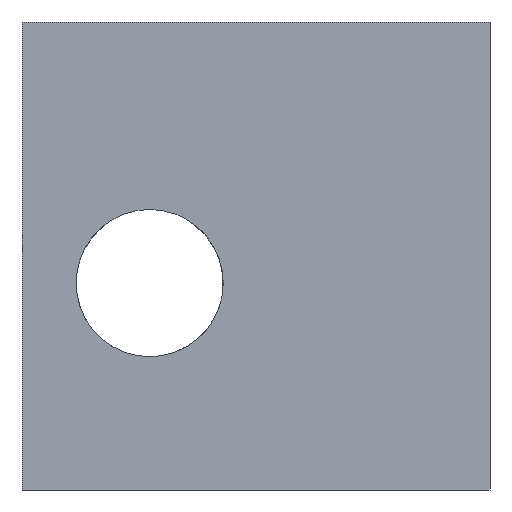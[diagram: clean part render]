
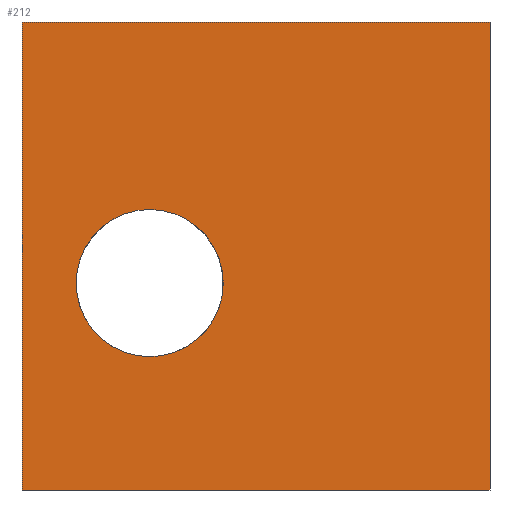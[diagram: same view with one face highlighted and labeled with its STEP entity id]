
A CAD part, front view. The second image highlights one B-rep face of the part: STEP entity #212.
In plain terms, the highlighted planar face has unit normal (0, -1, 0).
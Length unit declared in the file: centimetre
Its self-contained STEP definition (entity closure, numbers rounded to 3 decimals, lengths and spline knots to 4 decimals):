
#17 = CARTESIAN_POINT ( 'NONE',  ( 272.8139, 0., 599.3149 ) ) ;
#36 = AXIS2_PLACEMENT_3D ( 'NONE', #710, #622, #179 ) ;
#49 = DIRECTION ( 'NONE',  ( 0., 0., 1. ) ) ;
#64 = EDGE_CURVE ( 'NONE', #673, #615, #190, .T. ) ;
#71 = DIRECTION ( 'NONE',  ( 1., 0., 0. ) ) ;
#110 = ORIENTED_EDGE ( 'NONE', *, *, #122, .F. ) ;
#117 = CARTESIAN_POINT ( 'NONE',  ( 1000., 0., 1000. ) ) ;
#122 = EDGE_CURVE ( 'NONE', #175, #366, #432, .T. ) ;
#123 = LINE ( 'NONE', #377, #543 ) ;
#175 = VERTEX_POINT ( 'NONE', #520 ) ;
#179 = DIRECTION ( 'NONE',  ( 0., 0., -1. ) ) ;
#184 = AXIS2_PLACEMENT_3D ( 'NONE', #781, #204, #283 ) ;
#190 = LINE ( 'NONE', #696, #330 ) ;
#194 = FACE_BOUND ( 'NONE', #480, .T. ) ;
#204 = DIRECTION ( 'NONE',  ( 0., -1., 0. ) ) ;
#212 = ADVANCED_FACE ( 'NONE', ( #194, #259 ), #631, .F. ) ;
#225 = VERTEX_POINT ( 'NONE', #247 ) ;
#240 = ORIENTED_EDGE ( 'NONE', *, *, #587, .T. ) ;
#243 = ORIENTED_EDGE ( 'NONE', *, *, #723, .F. ) ;
#247 = CARTESIAN_POINT ( 'NONE',  ( 0., 0., 0. ) ) ;
#259 = FACE_OUTER_BOUND ( 'NONE', #311, .T. ) ;
#283 = DIRECTION ( 'NONE',  ( 0., 0., -1. ) ) ;
#311 = EDGE_LOOP ( 'NONE', ( #357, #792, #805, #240 ) ) ;
#324 = EDGE_CURVE ( 'NONE', #615, #602, #123, .T. ) ;
#330 = VECTOR ( 'NONE', #71, 100. ) ;
#333 = CARTESIAN_POINT ( 'NONE',  ( 0., 0., 1000. ) ) ;
#340 = LINE ( 'NONE', #721, #763 ) ;
#347 = LINE ( 'NONE', #371, #641 ) ;
#357 = ORIENTED_EDGE ( 'NONE', *, *, #563, .T. ) ;
#366 = VERTEX_POINT ( 'NONE', #17 ) ;
#371 = CARTESIAN_POINT ( 'NONE',  ( 0., 0., 1000. ) ) ;
#377 = CARTESIAN_POINT ( 'NONE',  ( 1000., 0., 1000. ) ) ;
#378 = DIRECTION ( 'NONE',  ( 0., 0., -1. ) ) ;
#432 = CIRCLE ( 'NONE', #184, 157.2107 ) ;
#433 = CIRCLE ( 'NONE', #36, 157.2107 ) ;
#480 = EDGE_LOOP ( 'NONE', ( #110, #243 ) ) ;
#504 = DIRECTION ( 'NONE',  ( 0., 0., -1. ) ) ;
#520 = CARTESIAN_POINT ( 'NONE',  ( 272.8139, 0., 284.8935 ) ) ;
#543 = VECTOR ( 'NONE', #504, 100. ) ;
#563 = EDGE_CURVE ( 'NONE', #225, #602, #340, .T. ) ;
#587 = EDGE_CURVE ( 'NONE', #673, #225, #347, .T. ) ;
#602 = VERTEX_POINT ( 'NONE', #684 ) ;
#615 = VERTEX_POINT ( 'NONE', #117 ) ;
#622 = DIRECTION ( 'NONE',  ( 0., -1., 0. ) ) ;
#631 = PLANE ( 'NONE',  #778 ) ;
#636 = DIRECTION ( 'NONE',  ( 0., 1., 0. ) ) ;
#641 = VECTOR ( 'NONE', #378, 100. ) ;
#673 = VERTEX_POINT ( 'NONE', #333 ) ;
#684 = CARTESIAN_POINT ( 'NONE',  ( 1000., 0., 0. ) ) ;
#696 = CARTESIAN_POINT ( 'NONE',  ( 0., 0., 1000. ) ) ;
#710 = CARTESIAN_POINT ( 'NONE',  ( 272.8139, 0., 442.1042 ) ) ;
#721 = CARTESIAN_POINT ( 'NONE',  ( 0., 0., 0. ) ) ;
#723 = EDGE_CURVE ( 'NONE', #366, #175, #433, .T. ) ;
#749 = CARTESIAN_POINT ( 'NONE',  ( 0., 0., 1000. ) ) ;
#763 = VECTOR ( 'NONE', #783, 100. ) ;
#778 = AXIS2_PLACEMENT_3D ( 'NONE', #749, #636, #49 ) ;
#781 = CARTESIAN_POINT ( 'NONE',  ( 272.8139, 0., 442.1042 ) ) ;
#783 = DIRECTION ( 'NONE',  ( 1., 0., 0. ) ) ;
#792 = ORIENTED_EDGE ( 'NONE', *, *, #324, .F. ) ;
#805 = ORIENTED_EDGE ( 'NONE', *, *, #64, .F. ) ;
